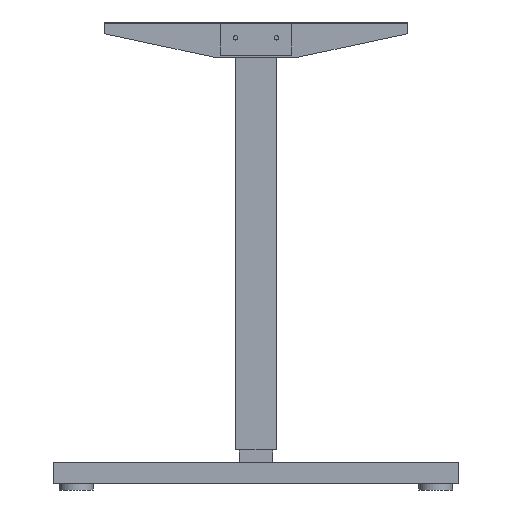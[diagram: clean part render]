
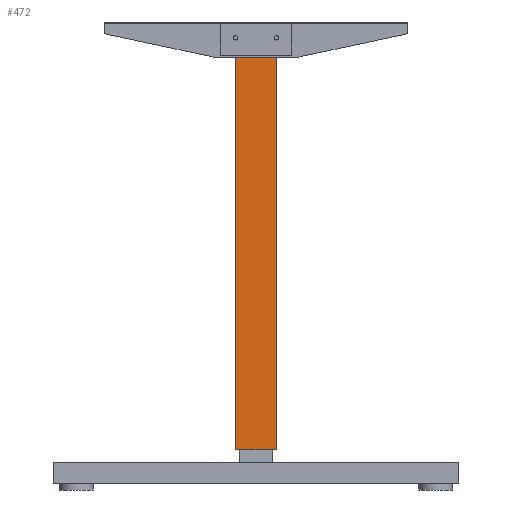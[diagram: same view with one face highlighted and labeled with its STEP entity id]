
A CAD part, left-side view. The second image highlights one B-rep face of the part: STEP entity #472.
In plain terms, the highlighted planar face has unit normal (-1, 0, 0).
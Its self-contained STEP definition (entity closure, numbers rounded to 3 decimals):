
#472 = ADVANCED_FACE( '', ( #1008 ), #1009, .F. );
#1008 = FACE_OUTER_BOUND( '', #1616, .T. );
#1009 = PLANE( '', #1617 );
#1616 = EDGE_LOOP( '', ( #2568, #2569, #2570, #2571 ) );
#1617 = AXIS2_PLACEMENT_3D( '', #2572, #2573, #2574 );
#2568 = ORIENTED_EDGE( '', *, *, #3292, .F. );
#2569 = ORIENTED_EDGE( '', *, *, #3390, .F. );
#2570 = ORIENTED_EDGE( '', *, *, #3111, .F. );
#2571 = ORIENTED_EDGE( '', *, *, #3391, .F. );
#2572 = CARTESIAN_POINT( '', ( -30., 0., 0. ) );
#2573 = DIRECTION( '', ( 1., 0., 0. ) );
#2574 = DIRECTION( '', ( 0., 0., -1. ) );
#3111 = EDGE_CURVE( '', #3615, #3616, #3617, .T. );
#3292 = EDGE_CURVE( '', #3918, #3920, #3921, .T. );
#3390 = EDGE_CURVE( '', #3616, #3918, #4062, .T. );
#3391 = EDGE_CURVE( '', #3920, #3615, #4063, .T. );
#3615 = VERTEX_POINT( '', #4353 );
#3616 = VERTEX_POINT( '', #4354 );
#3617 = LINE( '', #4355, #4356 );
#3918 = VERTEX_POINT( '', #4731 );
#3920 = VERTEX_POINT( '', #4734 );
#3921 = LINE( '', #4735, #4736 );
#4062 = LINE( '', #4916, #4917 );
#4063 = LINE( '', #4918, #4919 );
#4353 = CARTESIAN_POINT( '', ( -30., 30., 600. ) );
#4354 = CARTESIAN_POINT( '', ( -30., -30., 600. ) );
#4355 = CARTESIAN_POINT( '', ( -30., 30., 600. ) );
#4356 = VECTOR( '', #5154, 1000. );
#4731 = CARTESIAN_POINT( '', ( -30., -30., 18. ) );
#4734 = CARTESIAN_POINT( '', ( -30., 30., 18. ) );
#4735 = CARTESIAN_POINT( '', ( -30., 25., 18. ) );
#4736 = VECTOR( '', #5425, 1000. );
#4916 = CARTESIAN_POINT( '', ( -30., -30., 600. ) );
#4917 = VECTOR( '', #5555, 1000. );
#4918 = CARTESIAN_POINT( '', ( -30., 30., 18. ) );
#4919 = VECTOR( '', #5556, 1000. );
#5154 = DIRECTION( '', ( 0., -1., 0. ) );
#5425 = DIRECTION( '', ( 0., 1., 0. ) );
#5555 = DIRECTION( '', ( 0., 0., -1. ) );
#5556 = DIRECTION( '', ( 0., 0., 1. ) );
